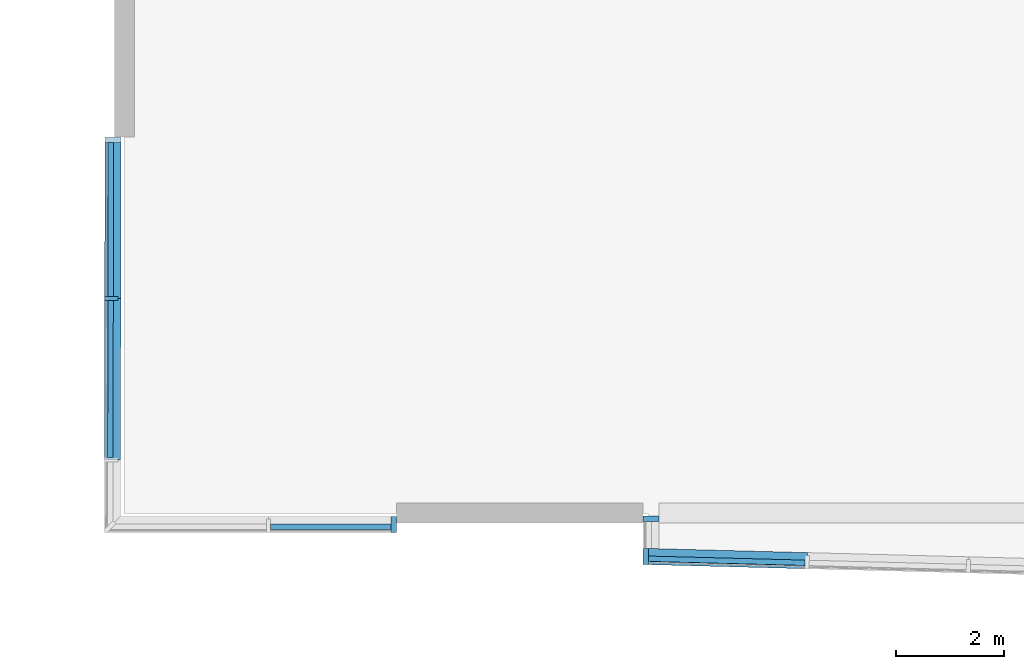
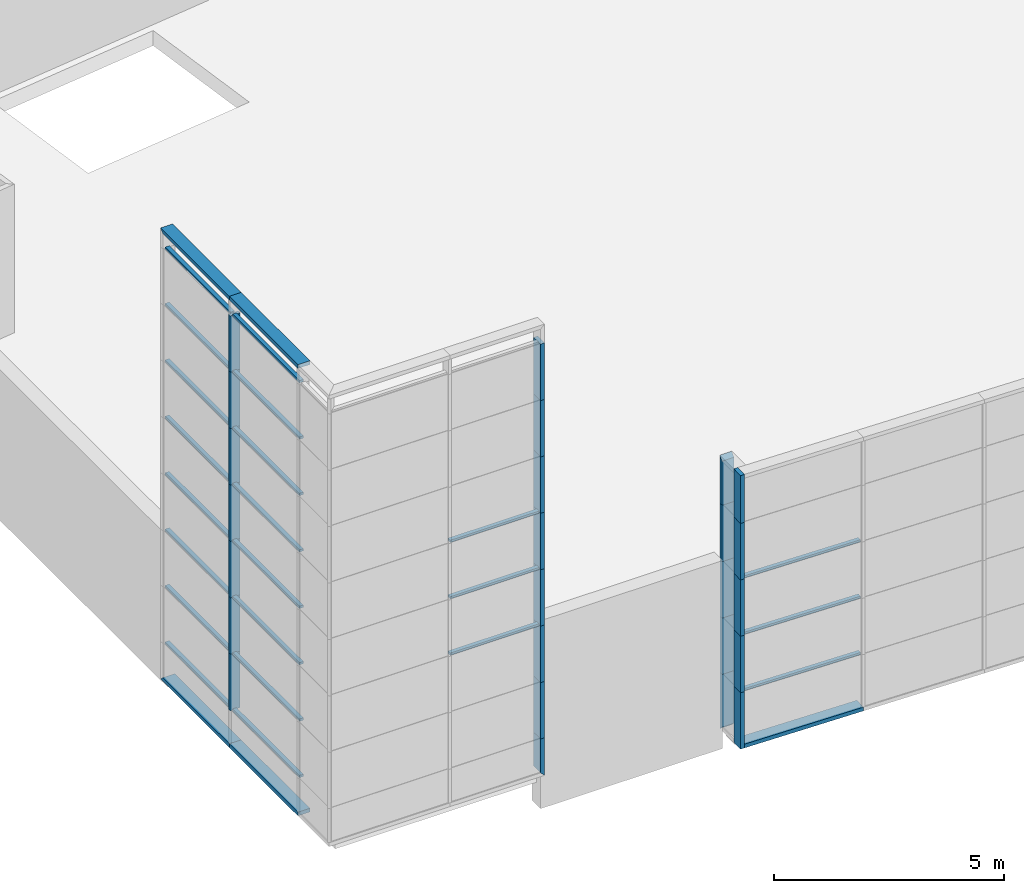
# One storey, part 2 of 27: 52 members, 3 elements without a shape of their own.
"""IFC2X3 building model written with IfcOpenShell, lengths in metres."""

from ifc_helpers import new_model, entity, si_unit, converted_unit, money_unit, direction, frame, origin_with_axes, place, context, subcontext, project, spatial, polyline, outline, extrude, clip, halfspace, material, type_object, element, aggregate, save


model = new_model("IFC2X3")

# Units and contexts
model_context = context("Model", 3, precision=1e-05, world=origin_with_axes(), true_north=direction((0.0, 1.0)))
body_context = subcontext(model_context, "Body", "Model", "MODEL_VIEW")
ifc_project = project(units=[si_unit("LENGTHUNIT", "METRE"), si_unit("AREAUNIT", "SQUARE_METRE"), si_unit("VOLUMEUNIT", "CUBIC_METRE"), converted_unit("PLANEANGLEUNIT", "DEGREE", entity("IfcPlaneAngleMeasure", 0.0174532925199), si_unit("PLANEANGLEUNIT", "RADIAN"), dimensions=[0, 0, 0, 0, 0, 0, 0]), si_unit("SOLIDANGLEUNIT", "STERADIAN"), money_unit("EUR"), converted_unit("TIMEUNIT", "Year", entity("IfcTimeMeasure", 31556926.0), si_unit("TIMEUNIT", "SECOND"), dimensions=[0, 0, 0, 0, 0, 0, 0]), si_unit("MASSUNIT", "GRAM"), si_unit("THERMODYNAMICTEMPERATUREUNIT", "DEGREE_CELSIUS"), si_unit("LUMINOUSINTENSITYUNIT", "LUMEN")], contexts=[model_context])

# Site, building, storey
site_placement = place(None, origin_with_axes())
site = spatial("IfcSite", under=ifc_project, at=site_placement, Name="Undefined", CompositionType="ELEMENT")
building_placement = place(site_placement, origin_with_axes())
building = spatial("IfcBuilding", under=site, at=building_placement, Name="Undefined", CompositionType="ELEMENT")
storey_placement = place(building_placement, frame((0.0, 0.0, 5.4), z_axis=(0.0, 0.0, 1.0), x_axis=(1.0, 0.0, 0.0)))
storey = spatial("IfcBuildingStorey", under=building, at=storey_placement, Name="R+1", CompositionType="ELEMENT", Elevation=5.4)

# Curtain wall, members
curtain_wall_type = type_object("IfcCurtainWallType", Name="Type de mur-rideau", PredefinedType="NOTDEFINED")
curtain_wall_1_placement = place(storey_placement, frame((9.49999998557, -0.66969262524, -0.55), z_axis=(0.0, 0.0, 1.0), x_axis=(1.0, 0.0, 0.0)))
curtain_wall_1 = element("IfcCurtainWall", 1, at=curtain_wall_1_placement, inside=storey, type_object=curtain_wall_type, Name="CurtainWall_01", ObjectType="CURTAIN WALL")
ifc_material = material(Name="25 % 359672764")
member_type_1 = type_object("IfcMemberType", Name="Cadre 100 x 300", PredefinedType="NOTDEFINED")
member_1_placement = place(curtain_wall_1_placement, frame((1.44304870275e-08, 0.426115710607, 0.0), z_axis=(0.0, 0.0, 1.0), x_axis=(3.3865186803e-08, 1.0, 0.0)))
member_1 = element("IfcMember", 2, at=member_1_placement, type_object=member_type_1, material=ifc_material, Name="Frame-Bnd-802", context=body_context, shape_type="Clipping", body=[
    clip(extrude(outline(polyline([(0.25, -8.46629669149e-09), (-0.05, 1.6932593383e-09), (-0.0500000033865, -0.0999999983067), (0.249999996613, -0.100000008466), (0.25, -8.46629669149e-09)])), frame((0.0, 0.0, 0.0), z_axis=(0.0, 0.0, 1.0), x_axis=(3.3865186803e-08, -1.0, 0.0)), (0.0, 0.0, 1.0), 1.5), halfspace(frame((0.0, 0.0, 0.0), z_axis=(0.707106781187, 0.0, 0.707106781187), x_axis=(0.0, -1.0, 0.0)), True)),
])
member_2_placement = place(curtain_wall_1_placement, frame((1.44304870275e-08, 0.426115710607, 1.5), z_axis=(0.0, 0.0, 1.0), x_axis=(3.3865186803e-08, 1.0, 0.0)))
member_2 = element("IfcMember", 3, at=member_2_placement, type_object=member_type_1, material=ifc_material, Name="Frame-Bnd-802", context=body_context, shape_type="SweptSolid", body=[
    extrude(outline(polyline([(0.25, -8.46629669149e-09), (-0.05, 1.6932593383e-09), (-0.0500000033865, -0.0999999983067), (0.249999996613, -0.100000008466), (0.25, -8.46629669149e-09)])), frame((0.0, 0.0, 0.0), z_axis=(0.0, 0.0, 1.0), x_axis=(3.3865186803e-08, -1.0, 0.0)), (0.0, 0.0, 1.0), 1.5),
])
member_3_placement = place(curtain_wall_1_placement, frame((1.44304870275e-08, 0.426115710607, 3.0), z_axis=(0.0, 0.0, 1.0), x_axis=(3.3865186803e-08, 1.0, 0.0)))
member_3 = element("IfcMember", 4, at=member_3_placement, type_object=member_type_1, material=ifc_material, Name="Frame-Bnd-802", context=body_context, shape_type="SweptSolid", body=[
    extrude(outline(polyline([(0.25, -8.46629669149e-09), (-0.05, 1.6932593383e-09), (-0.0500000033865, -0.0999999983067), (0.249999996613, -0.100000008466), (0.25, -8.46629669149e-09)])), frame((0.0, 0.0, 0.0), z_axis=(0.0, 0.0, 1.0), x_axis=(3.3865186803e-08, -1.0, 0.0)), (0.0, 0.0, 1.0), 1.5),
])
member_4_placement = place(curtain_wall_1_placement, frame((1.44304870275e-08, 0.426115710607, 4.5), z_axis=(0.0, 0.0, 1.0), x_axis=(3.3865186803e-08, 1.0, 0.0)))
member_4 = element("IfcMember", 5, at=member_4_placement, type_object=member_type_1, material=ifc_material, Name="Frame-Bnd-802", context=body_context, shape_type="SweptSolid", body=[
    extrude(outline(polyline([(0.25, -8.46629669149e-09), (-0.05, 1.6932593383e-09), (-0.0500000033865, -0.0999999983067), (0.249999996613, -0.100000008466), (0.25, -8.46629669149e-09)])), frame((0.0, 0.0, 0.0), z_axis=(0.0, 0.0, 1.0), x_axis=(3.3865186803e-08, -1.0, 0.0)), (0.0, 0.0, 1.0), 1.5),
])
member_5_placement = place(curtain_wall_1_placement, frame((1.44304870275e-08, 0.426115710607, 6.0), z_axis=(0.0, 0.0, 1.0), x_axis=(3.3865186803e-08, 1.0, 0.0)))
member_5 = element("IfcMember", 6, at=member_5_placement, type_object=member_type_1, material=ifc_material, Name="Frame-Bnd-802", context=body_context, shape_type="Clipping", body=[
    clip(extrude(outline(polyline([(0.25, -8.46629669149e-09), (-0.05, 1.6932593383e-09), (-0.0500000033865, -0.0999999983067), (0.249999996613, -0.100000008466), (0.25, -8.46629669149e-09)])), frame((0.0, 0.0, 0.0), z_axis=(0.0, 0.0, 1.0), x_axis=(3.3865186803e-08, -1.0, 0.0)), (0.0, 0.0, 1.0), 1.27482766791), halfspace(frame((-0.637413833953, 0.0, 0.637413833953), z_axis=(0.707106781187, 0.0, -0.707106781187), x_axis=(0.0, 1.0, 0.0)), True)),
])
aggregate(curtain_wall_1, [member_1, member_2, member_3, member_4, member_5])

curtain_wall_2_placement = place(storey_placement, frame((-0.508840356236, 0.150119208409, 0.0), z_axis=(0.0, 0.0, 1.0), x_axis=(1.0, 0.0, 0.0)))
curtain_wall_2 = element("IfcCurtainWall", 7, at=curtain_wall_2_placement, inside=storey, type_object=curtain_wall_type, Name="CurtainWall_01", ObjectType="CURTAIN WALL")
member_6_placement = place(curtain_wall_2_placement, frame((0.00485267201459, 3.65011655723, 12.0000000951), z_axis=(0.00132945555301, 0.999999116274, 0.0), x_axis=(0.0, 0.0, -1.0)))
member_6 = element("IfcMember", 8, at=member_6_placement, type_object=member_type_1, material=ifc_material, Name="Frame-Bnd-934", context=body_context, shape_type="Clipping", body=[
    clip(extrude(outline(polyline([(0.25, 0.1), (-0.05, 0.1), (-0.05, 0.0), (0.25, 0.0), (0.25, 0.1)])), frame((0.0, 0.0, 0.0), z_axis=(0.0, 0.0, 1.0), x_axis=(0.0, -1.0, 0.0)), (0.0, 0.0, 1.0), 3.0), halfspace(frame((1.5, 0.0, 1.5), z_axis=(-0.707106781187, 0.0, -0.707106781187), x_axis=(0.0, 1.0, 0.0)), True)),
])
member_7_placement = place(curtain_wall_2_placement, frame((5.37446819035, -0.650119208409, 0.0), z_axis=(8.94070504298e-08, 0.0, 1.0), x_axis=(-1.0, 0.0, 8.94070504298e-08)))
member_7 = element("IfcMember", 9, at=member_7_placement, type_object=member_type_1, material=ifc_material, Name="Frame-Bnd-677", context=body_context, shape_type="Clipping", body=[
    clip(extrude(outline(polyline([(-0.1, 0.25), (-0.1, -0.05), (0.0, -0.05), (0.0, 0.25), (-0.1, 0.25)])), frame((0.0, 0.0, 0.0), z_axis=(0.0, 0.0, 1.0), x_axis=(-1.0, 0.0, 8.94070504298e-08)), (0.0, 0.0, 1.0), 1.00000002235), halfspace(frame((0.0, 0.0, 0.0), z_axis=(-0.707106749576, 0.0, 0.707106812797), x_axis=(0.0, -1.0, 0.0)), True)),
])
member_8_placement = place(curtain_wall_2_placement, frame((0.00884103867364, 6.65011390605, 0.0), z_axis=(-0.00132945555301, -0.999999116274, 0.0), x_axis=(0.0, 0.0, 1.0)))
member_8 = element("IfcMember", 10, at=member_8_placement, type_object=member_type_1, material=ifc_material, Name="Frame-Bnd-835", context=body_context, shape_type="Clipping", body=[
    clip(extrude(outline(polyline([(-0.25, -0.1), (0.05, -0.1), (0.05, 0.0), (-0.25, 0.0), (-0.25, -0.1)])), frame((0.0, 0.0, 0.0), z_axis=(0.0, 0.0, 1.0), x_axis=(0.0, 1.0, 0.0)), (0.0, 0.0, 1.0), 3.0), halfspace(frame((0.0, 0.0, 0.0), z_axis=(-0.707106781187, 0.0, 0.707106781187), x_axis=(0.0, -1.0, 0.0)), True)),
])
member_9_placement = place(curtain_wall_2_placement, frame((5.37446827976, -0.650119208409, 2.50000002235), z_axis=(-8.32459896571e-08, 0.0, 1.0), x_axis=(-1.0, 0.0, -8.32459896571e-08)))
member_9 = element("IfcMember", 11, at=member_9_placement, type_object=member_type_1, material=ifc_material, Name="Frame-Bnd-675", context=body_context, shape_type="SweptSolid", body=[
    extrude(outline(polyline([(-0.1, 0.25), (-0.1, -0.05), (0.0, -0.05), (0.0, 0.25), (-0.1, 0.25)])), frame((0.0, 0.0, 0.0), z_axis=(0.0, 0.0, 1.0), x_axis=(-1.0, 0.0, -8.32459896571e-08)), (0.0, 0.0, 1.0), 1.5),
])
member_10_placement = place(curtain_wall_2_placement, frame((5.37446827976, -0.650119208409, 1.00000002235), z_axis=(0.0, 0.0, 1.0), x_axis=(-1.0, 0.0, 0.0)))
member_10 = element("IfcMember", 12, at=member_10_placement, type_object=member_type_1, material=ifc_material, Name="Frame-Bnd-676", context=body_context, shape_type="SweptSolid", body=[
    extrude(outline(polyline([(-0.1, 0.25), (-0.1, -0.05), (0.0, -0.05), (0.0, 0.25), (-0.1, 0.25)])), frame((0.0, 0.0, 0.0), z_axis=(0.0, 0.0, 1.0), x_axis=(-1.0, 0.0, 0.0)), (0.0, 0.0, 1.0), 1.5),
])
member_11_placement = place(curtain_wall_2_placement, frame((0.00485267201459, 3.65011655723, 0.0), z_axis=(-0.00132945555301, -0.999999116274, 0.0), x_axis=(0.0, 0.0, 1.0)))
member_11 = element("IfcMember", 13, at=member_11_placement, type_object=member_type_1, material=ifc_material, Name="Frame-Bnd-834", context=body_context, shape_type="SweptSolid", body=[
    extrude(outline(polyline([(-0.25, -0.1), (0.05, -0.1), (0.05, 0.0), (-0.25, 0.0), (-0.25, -0.1)])), frame((0.0, 0.0, 0.0), z_axis=(0.0, 0.0, 1.0), x_axis=(0.0, 1.0, 0.0)), (0.0, 0.0, 1.0), 3.0),
])
member_12_placement = place(curtain_wall_2_placement, frame((0.00086430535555, 0.650119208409, 12.0000000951), z_axis=(0.00132945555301, 0.999999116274, 0.0), x_axis=(0.0, 0.0, -1.0)))
member_12 = element("IfcMember", 14, at=member_12_placement, type_object=member_type_1, material=ifc_material, Name="Frame-Bnd-935", context=body_context, shape_type="SweptSolid", body=[
    extrude(outline(polyline([(0.25, 0.1), (-0.05, 0.1), (-0.05, 0.0), (0.25, 0.0), (0.25, 0.1)])), frame((0.0, 0.0, 0.0), z_axis=(0.0, 0.0, 1.0), x_axis=(0.0, -1.0, 0.0)), (0.0, 0.0, 1.0), 3.0),
])
member_13_placement = place(curtain_wall_2_placement, frame((5.37446815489, -0.650119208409, 10.0000000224), z_axis=(2.36412880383e-08, 0.0, 1.0), x_axis=(-1.0, 0.0, 2.36412880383e-08)))
member_13 = element("IfcMember", 15, at=member_13_placement, type_object=member_type_1, material=ifc_material, Name="Frame-Bnd-777", context=body_context, shape_type="SweptSolid", body=[
    extrude(outline(polyline([(-0.1, 0.25), (-0.1, -0.05), (0.0, -0.05), (0.0, 0.25), (-0.1, 0.25)])), frame((0.0, 0.0, 0.0), z_axis=(0.0, 0.0, 1.0), x_axis=(-1.0, 0.0, 2.36412880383e-08)), (0.0, 0.0, 1.0), 1.5),
])
member_14_placement = place(curtain_wall_2_placement, frame((5.37446815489, -0.650119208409, 8.50000002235), z_axis=(0.0, 0.0, 1.0), x_axis=(-1.0, 0.0, 0.0)))
member_14 = element("IfcMember", 16, at=member_14_placement, type_object=member_type_1, material=ifc_material, Name="Frame-Bnd-778", context=body_context, shape_type="SweptSolid", body=[
    extrude(outline(polyline([(-0.1, 0.25), (-0.1, -0.05), (0.0, -0.05), (0.0, 0.25), (-0.1, 0.25)])), frame((0.0, 0.0, 0.0), z_axis=(0.0, 0.0, 1.0), x_axis=(-1.0, 0.0, 0.0)), (0.0, 0.0, 1.0), 1.5),
])
member_15_placement = place(curtain_wall_2_placement, frame((5.37446815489, -0.650119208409, 7.00000002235), z_axis=(0.0, 0.0, 1.0), x_axis=(-1.0, 0.0, 0.0)))
member_15 = element("IfcMember", 17, at=member_15_placement, type_object=member_type_1, material=ifc_material, Name="Frame-Bnd-779", context=body_context, shape_type="SweptSolid", body=[
    extrude(outline(polyline([(-0.1, 0.25), (-0.1, -0.05), (0.0, -0.05), (0.0, 0.25), (-0.1, 0.25)])), frame((0.0, 0.0, 0.0), z_axis=(0.0, 0.0, 1.0), x_axis=(-1.0, 0.0, 0.0)), (0.0, 0.0, 1.0), 1.5),
])
member_16_placement = place(curtain_wall_2_placement, frame((5.37446815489, -0.650119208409, 5.50000002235), z_axis=(0.0, 0.0, 1.0), x_axis=(-1.0, 0.0, 0.0)))
member_16 = element("IfcMember", 18, at=member_16_placement, type_object=member_type_1, material=ifc_material, Name="Frame-Bnd-780", context=body_context, shape_type="SweptSolid", body=[
    extrude(outline(polyline([(-0.1, 0.25), (-0.1, -0.05), (0.0, -0.05), (0.0, 0.25), (-0.1, 0.25)])), frame((0.0, 0.0, 0.0), z_axis=(0.0, 0.0, 1.0), x_axis=(-1.0, 0.0, 0.0)), (0.0, 0.0, 1.0), 1.5),
])
member_17_placement = place(curtain_wall_2_placement, frame((5.37446815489, -0.650119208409, 4.00000002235), z_axis=(0.0, 0.0, 1.0), x_axis=(-1.0, 0.0, 0.0)))
member_17 = element("IfcMember", 19, at=member_17_placement, type_object=member_type_1, material=ifc_material, Name="Frame-Bnd-781", context=body_context, shape_type="SweptSolid", body=[
    extrude(outline(polyline([(-0.1, 0.25), (-0.1, -0.05), (0.0, -0.05), (0.0, 0.25), (-0.1, 0.25)])), frame((0.0, 0.0, 0.0), z_axis=(0.0, 0.0, 1.0), x_axis=(-1.0, 0.0, 0.0)), (0.0, 0.0, 1.0), 1.5),
])

# Curtain wall, member
curtain_wall_3_placement = place(storey_placement, frame((10.9994920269, -1.13484133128, -0.55), z_axis=(0.0, 0.0, 1.0), x_axis=(1.0, 0.0, 0.0)))
curtain_wall_3 = element("IfcCurtainWall", 20, at=curtain_wall_3_placement, inside=storey, type_object=curtain_wall_type, Name="CurtainWall_01", ObjectType="CURTAIN WALL")
member_18_placement = place(curtain_wall_3_placement, frame((-1.49949205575, 0.0390329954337, 0.0), z_axis=(0.999661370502, -0.0260219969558, 0.0), x_axis=(0.0, 0.0, 1.0)))
member_18 = element("IfcMember", 21, at=member_18_placement, type_object=member_type_1, material=ifc_material, Name="Frame-Bnd-565", context=body_context, shape_type="SweptSolid", body=[
    extrude(outline(polyline([(-0.25, -0.1), (0.05, -0.1), (0.05, 0.0), (-0.25, 0.0), (-0.25, -0.1)])), frame((0.0, 0.0, 0.05), z_axis=(0.0, 0.0, 1.0), x_axis=(0.0, 1.0, 0.0)), (0.0, 0.0, 1.0), 2.95),
])

# Member
member_type_2 = type_object("IfcMemberType", Name="Montant 80 x 250", PredefinedType="NOTDEFINED")
member_19_placement = place(curtain_wall_2_placement, frame((0.00485267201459, 3.65011655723, 1.00000002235), z_axis=(0.0, 0.0, 1.0), x_axis=(0.00132945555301, 0.999999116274, 0.0)))
member_19 = element("IfcMember", 22, at=member_19_placement, type_object=member_type_2, material=ifc_material, Name="Frame-Mll-133", context=body_context, shape_type="SweptSolid", body=[
    extrude(outline(polyline([(0.200053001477, 0.0397340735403), (-0.0499467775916, 0.0400664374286), (-0.0500531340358, -0.0399334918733), (0.199946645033, -0.0402658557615), (0.200053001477, 0.0397340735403)])), frame((0.0, 0.0, 0.0), z_axis=(0.0, 0.0, 1.0), x_axis=(0.00132945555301, -0.999999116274, 0.0)), (0.0, 0.0, 1.0), 1.5),
])

member_20_placement = place(curtain_wall_2_placement, frame((0.00485267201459, 3.65011655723, 2.50000002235), z_axis=(0.0, 0.0, 1.0), x_axis=(0.00132945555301, 0.999999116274, 0.0)))
member_20 = element("IfcMember", 23, at=member_20_placement, type_object=member_type_2, material=ifc_material, Name="Frame-Mll-166", context=body_context, shape_type="SweptSolid", body=[
    extrude(outline(polyline([(0.200053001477, 0.0397340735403), (-0.0499467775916, 0.0400664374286), (-0.0500531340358, -0.0399334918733), (0.199946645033, -0.0402658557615), (0.200053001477, 0.0397340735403)])), frame((0.0, 0.0, 0.0), z_axis=(0.0, 0.0, 1.0), x_axis=(0.00132945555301, -0.999999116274, 0.0)), (0.0, 0.0, 1.0), 1.5),
])

member_21_placement = place(curtain_wall_2_placement, frame((0.00485267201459, 3.65011655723, 4.00000002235), z_axis=(0.0, 0.0, 1.0), x_axis=(0.00132945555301, 0.999999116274, 0.0)))
member_21 = element("IfcMember", 24, at=member_21_placement, type_object=member_type_2, material=ifc_material, Name="Frame-Mll-167", context=body_context, shape_type="SweptSolid", body=[
    extrude(outline(polyline([(0.200053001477, 0.0397340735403), (-0.0499467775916, 0.0400664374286), (-0.0500531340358, -0.0399334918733), (0.199946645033, -0.0402658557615), (0.200053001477, 0.0397340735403)])), frame((0.0, 0.0, 0.0), z_axis=(0.0, 0.0, 1.0), x_axis=(0.00132945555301, -0.999999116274, 0.0)), (0.0, 0.0, 1.0), 1.5),
])

member_22_placement = place(curtain_wall_2_placement, frame((0.00485267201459, 3.65011655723, 5.50000002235), z_axis=(0.0, 0.0, 1.0), x_axis=(0.00132945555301, 0.999999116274, 0.0)))
member_22 = element("IfcMember", 25, at=member_22_placement, type_object=member_type_2, material=ifc_material, Name="Frame-Mll-168", context=body_context, shape_type="SweptSolid", body=[
    extrude(outline(polyline([(0.200053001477, 0.0397340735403), (-0.0499467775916, 0.0400664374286), (-0.0500531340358, -0.0399334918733), (0.199946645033, -0.0402658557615), (0.200053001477, 0.0397340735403)])), frame((0.0, 0.0, 0.0), z_axis=(0.0, 0.0, 1.0), x_axis=(0.00132945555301, -0.999999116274, 0.0)), (0.0, 0.0, 1.0), 1.5),
])

member_23_placement = place(curtain_wall_2_placement, frame((0.00485267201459, 3.65011655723, 7.00000002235), z_axis=(0.0, 0.0, 1.0), x_axis=(0.00132945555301, 0.999999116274, 0.0)))
member_23 = element("IfcMember", 26, at=member_23_placement, type_object=member_type_2, material=ifc_material, Name="Frame-Mll-169", context=body_context, shape_type="SweptSolid", body=[
    extrude(outline(polyline([(0.200053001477, 0.0397340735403), (-0.0499467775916, 0.0400664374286), (-0.0500531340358, -0.0399334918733), (0.199946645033, -0.0402658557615), (0.200053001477, 0.0397340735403)])), frame((0.0, 0.0, 0.0), z_axis=(0.0, 0.0, 1.0), x_axis=(0.00132945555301, -0.999999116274, 0.0)), (0.0, 0.0, 1.0), 1.5),
])

member_24_placement = place(curtain_wall_2_placement, frame((0.00485267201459, 3.65011655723, 8.50000002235), z_axis=(0.0, 0.0, 1.0), x_axis=(0.00132945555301, 0.999999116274, 0.0)))
member_24 = element("IfcMember", 27, at=member_24_placement, type_object=member_type_2, material=ifc_material, Name="Frame-Mll-170", context=body_context, shape_type="SweptSolid", body=[
    extrude(outline(polyline([(0.200053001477, 0.0397340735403), (-0.0499467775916, 0.0400664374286), (-0.0500531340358, -0.0399334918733), (0.199946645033, -0.0402658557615), (0.200053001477, 0.0397340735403)])), frame((0.0, 0.0, 0.0), z_axis=(0.0, 0.0, 1.0), x_axis=(0.00132945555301, -0.999999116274, 0.0)), (0.0, 0.0, 1.0), 1.5),
])

member_25_placement = place(curtain_wall_2_placement, frame((0.00485267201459, 3.65011655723, 10.0000000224), z_axis=(0.0, 0.0, 1.0), x_axis=(0.00132945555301, 0.999999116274, 0.0)))
member_25 = element("IfcMember", 28, at=member_25_placement, type_object=member_type_2, material=ifc_material, Name="Frame-Mll-171", context=body_context, shape_type="SweptSolid", body=[
    extrude(outline(polyline([(0.200053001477, 0.0397340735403), (-0.0499467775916, 0.0400664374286), (-0.0500531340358, -0.0399334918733), (0.199946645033, -0.0402658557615), (0.200053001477, 0.0397340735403)])), frame((0.0, 0.0, 0.0), z_axis=(0.0, 0.0, 1.0), x_axis=(0.00132945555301, -0.999999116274, 0.0)), (0.0, 0.0, 1.0), 1.5),
])

member_type_3 = type_object("IfcMemberType", Name="Traverse 60 x 100", PredefinedType="NOTDEFINED")
member_26_placement = place(curtain_wall_2_placement, frame((0.00884103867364, 6.65011390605, 1.00000002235), z_axis=(-0.00132945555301, -0.999999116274, 0.0), x_axis=(0.0, 0.0, 1.0)))
member_26 = element("IfcMember", 29, at=member_26_placement, type_object=member_type_3, material=ifc_material, Name="Frame-Trs-422", context=body_context, shape_type="SweptSolid", body=[
    extrude(outline(polyline([(-0.11, -0.03), (-0.01, -0.03), (-0.01, 0.03), (-0.11, 0.03), (-0.11, -0.03)])), frame((0.0, 0.0, 0.1), z_axis=(0.0, 0.0, 1.0), x_axis=(0.0, 1.0, 0.0)), (0.0, 0.0, 1.0), 2.86),
])

member_27_placement = place(curtain_wall_2_placement, frame((0.00884103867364, 6.65011390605, 2.50000002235), z_axis=(-0.00132945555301, -0.999999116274, 0.0), x_axis=(0.0, 0.0, 1.0)))
member_27 = element("IfcMember", 30, at=member_27_placement, type_object=member_type_3, material=ifc_material, Name="Frame-Trs-425", context=body_context, shape_type="SweptSolid", body=[
    extrude(outline(polyline([(-0.11, -0.03), (-0.01, -0.03), (-0.01, 0.03), (-0.11, 0.03), (-0.11, -0.03)])), frame((0.0, 0.0, 0.1), z_axis=(0.0, 0.0, 1.0), x_axis=(0.0, 1.0, 0.0)), (0.0, 0.0, 1.0), 2.86),
])

member_28_placement = place(curtain_wall_2_placement, frame((0.00485267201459, 3.65011655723, 2.50000002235), z_axis=(-0.00132945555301, -0.999999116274, 0.0), x_axis=(0.0, 0.0, 1.0)))
member_28 = element("IfcMember", 31, at=member_28_placement, type_object=member_type_3, material=ifc_material, Name="Frame-Trs-426", context=body_context, shape_type="SweptSolid", body=[
    extrude(outline(polyline([(-0.11, -0.03), (-0.01, -0.03), (-0.01, 0.03), (-0.11, 0.03), (-0.11, -0.03)])), frame((0.0, 0.0, 0.04), z_axis=(0.0, 0.0, 1.0), x_axis=(0.0, 1.0, 0.0)), (0.0, 0.0, 1.0), 2.92),
])

member_29_placement = place(curtain_wall_2_placement, frame((0.00884103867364, 6.65011390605, 4.00000002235), z_axis=(-0.00132945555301, -0.999999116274, 0.0), x_axis=(0.0, 0.0, 1.0)))
member_29 = element("IfcMember", 32, at=member_29_placement, type_object=member_type_3, material=ifc_material, Name="Frame-Trs-446", context=body_context, shape_type="SweptSolid", body=[
    extrude(outline(polyline([(-0.11, -0.03), (-0.01, -0.03), (-0.01, 0.03), (-0.11, 0.03), (-0.11, -0.03)])), frame((0.0, 0.0, 0.1), z_axis=(0.0, 0.0, 1.0), x_axis=(0.0, 1.0, 0.0)), (0.0, 0.0, 1.0), 2.86),
])

member_30_placement = place(curtain_wall_2_placement, frame((0.00485267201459, 3.65011655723, 4.00000002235), z_axis=(-0.00132945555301, -0.999999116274, 0.0), x_axis=(0.0, 0.0, 1.0)))
member_30 = element("IfcMember", 33, at=member_30_placement, type_object=member_type_3, material=ifc_material, Name="Frame-Trs-447", context=body_context, shape_type="SweptSolid", body=[
    extrude(outline(polyline([(-0.11, -0.03), (-0.01, -0.03), (-0.01, 0.03), (-0.11, 0.03), (-0.11, -0.03)])), frame((0.0, 0.0, 0.04), z_axis=(0.0, 0.0, 1.0), x_axis=(0.0, 1.0, 0.0)), (0.0, 0.0, 1.0), 2.92),
])

member_31_placement = place(curtain_wall_2_placement, frame((0.00884103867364, 6.65011390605, 5.50000002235), z_axis=(-0.00132945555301, -0.999999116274, 0.0), x_axis=(0.0, 0.0, 1.0)))
member_31 = element("IfcMember", 34, at=member_31_placement, type_object=member_type_3, material=ifc_material, Name="Frame-Trs-449", context=body_context, shape_type="SweptSolid", body=[
    extrude(outline(polyline([(-0.11, -0.03), (-0.01, -0.03), (-0.01, 0.03), (-0.11, 0.03), (-0.11, -0.03)])), frame((0.0, 0.0, 0.1), z_axis=(0.0, 0.0, 1.0), x_axis=(0.0, 1.0, 0.0)), (0.0, 0.0, 1.0), 2.86),
])

member_32_placement = place(curtain_wall_2_placement, frame((0.00485267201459, 3.65011655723, 5.50000002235), z_axis=(-0.00132945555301, -0.999999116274, 0.0), x_axis=(0.0, 0.0, 1.0)))
member_32 = element("IfcMember", 35, at=member_32_placement, type_object=member_type_3, material=ifc_material, Name="Frame-Trs-450", context=body_context, shape_type="SweptSolid", body=[
    extrude(outline(polyline([(-0.11, -0.03), (-0.01, -0.03), (-0.01, 0.03), (-0.11, 0.03), (-0.11, -0.03)])), frame((0.0, 0.0, 0.04), z_axis=(0.0, 0.0, 1.0), x_axis=(0.0, 1.0, 0.0)), (0.0, 0.0, 1.0), 2.92),
])

member_33_placement = place(curtain_wall_2_placement, frame((0.00884103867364, 6.65011390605, 7.00000002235), z_axis=(-0.00132945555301, -0.999999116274, 0.0), x_axis=(0.0, 0.0, 1.0)))
member_33 = element("IfcMember", 36, at=member_33_placement, type_object=member_type_3, material=ifc_material, Name="Frame-Trs-452", context=body_context, shape_type="SweptSolid", body=[
    extrude(outline(polyline([(-0.11, -0.03), (-0.01, -0.03), (-0.01, 0.03), (-0.11, 0.03), (-0.11, -0.03)])), frame((0.0, 0.0, 0.1), z_axis=(0.0, 0.0, 1.0), x_axis=(0.0, 1.0, 0.0)), (0.0, 0.0, 1.0), 2.86),
])

member_34_placement = place(curtain_wall_2_placement, frame((0.00485267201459, 3.65011655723, 7.00000002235), z_axis=(-0.00132945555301, -0.999999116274, 0.0), x_axis=(0.0, 0.0, 1.0)))
member_34 = element("IfcMember", 37, at=member_34_placement, type_object=member_type_3, material=ifc_material, Name="Frame-Trs-453", context=body_context, shape_type="SweptSolid", body=[
    extrude(outline(polyline([(-0.11, -0.03), (-0.01, -0.03), (-0.01, 0.03), (-0.11, 0.03), (-0.11, -0.03)])), frame((0.0, 0.0, 0.04), z_axis=(0.0, 0.0, 1.0), x_axis=(0.0, 1.0, 0.0)), (0.0, 0.0, 1.0), 2.92),
])

member_35_placement = place(curtain_wall_2_placement, frame((0.00884103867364, 6.65011390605, 8.50000002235), z_axis=(-0.00132945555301, -0.999999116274, 0.0), x_axis=(0.0, 0.0, 1.0)))
member_35 = element("IfcMember", 38, at=member_35_placement, type_object=member_type_3, material=ifc_material, Name="Frame-Trs-455", context=body_context, shape_type="SweptSolid", body=[
    extrude(outline(polyline([(-0.11, -0.03), (-0.01, -0.03), (-0.01, 0.03), (-0.11, 0.03), (-0.11, -0.03)])), frame((0.0, 0.0, 0.1), z_axis=(0.0, 0.0, 1.0), x_axis=(0.0, 1.0, 0.0)), (0.0, 0.0, 1.0), 2.86),
])

member_36_placement = place(curtain_wall_2_placement, frame((0.00485267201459, 3.65011655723, 8.50000002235), z_axis=(-0.00132945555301, -0.999999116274, 0.0), x_axis=(0.0, 0.0, 1.0)))
member_36 = element("IfcMember", 39, at=member_36_placement, type_object=member_type_3, material=ifc_material, Name="Frame-Trs-456", context=body_context, shape_type="SweptSolid", body=[
    extrude(outline(polyline([(-0.11, -0.03), (-0.01, -0.03), (-0.01, 0.03), (-0.11, 0.03), (-0.11, -0.03)])), frame((0.0, 0.0, 0.04), z_axis=(0.0, 0.0, 1.0), x_axis=(0.0, 1.0, 0.0)), (0.0, 0.0, 1.0), 2.92),
])

member_37_placement = place(curtain_wall_2_placement, frame((0.00884103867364, 6.65011390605, 10.0000000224), z_axis=(-0.00132945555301, -0.999999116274, 0.0), x_axis=(0.0, 0.0, 1.0)))
member_37 = element("IfcMember", 40, at=member_37_placement, type_object=member_type_3, material=ifc_material, Name="Frame-Trs-458", context=body_context, shape_type="SweptSolid", body=[
    extrude(outline(polyline([(-0.11, -0.03), (-0.01, -0.03), (-0.01, 0.03), (-0.11, 0.03), (-0.11, -0.03)])), frame((0.0, 0.0, 0.1), z_axis=(0.0, 0.0, 1.0), x_axis=(0.0, 1.0, 0.0)), (0.0, 0.0, 1.0), 2.86),
])

member_38_placement = place(curtain_wall_2_placement, frame((0.00485267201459, 3.65011655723, 10.0000000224), z_axis=(-0.00132945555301, -0.999999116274, 0.0), x_axis=(0.0, 0.0, 1.0)))
member_38 = element("IfcMember", 41, at=member_38_placement, type_object=member_type_3, material=ifc_material, Name="Frame-Trs-459", context=body_context, shape_type="SweptSolid", body=[
    extrude(outline(polyline([(-0.11, -0.03), (-0.01, -0.03), (-0.01, 0.03), (-0.11, 0.03), (-0.11, -0.03)])), frame((0.0, 0.0, 0.04), z_axis=(0.0, 0.0, 1.0), x_axis=(0.0, 1.0, 0.0)), (0.0, 0.0, 1.0), 2.92),
])

member_39_placement = place(curtain_wall_2_placement, frame((0.00884103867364, 6.65011390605, 11.5000000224), z_axis=(-0.00132945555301, -0.999999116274, 0.0), x_axis=(0.0, 0.0, 1.0)))
member_39 = element("IfcMember", 42, at=member_39_placement, type_object=member_type_3, material=ifc_material, Name="Frame-Trs-461", context=body_context, shape_type="SweptSolid", body=[
    extrude(outline(polyline([(-0.11, -0.03), (-0.01, -0.03), (-0.01, 0.03), (-0.11, 0.03), (-0.11, -0.03)])), frame((0.0, 0.0, 0.1), z_axis=(0.0, 0.0, 1.0), x_axis=(0.0, 1.0, 0.0)), (0.0, 0.0, 1.0), 2.86),
])

member_40_placement = place(curtain_wall_2_placement, frame((0.00485267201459, 3.65011655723, 11.5000000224), z_axis=(-0.00132945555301, -0.999999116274, 0.0), x_axis=(0.0, 0.0, 1.0)))
member_40 = element("IfcMember", 43, at=member_40_placement, type_object=member_type_3, material=ifc_material, Name="Frame-Trs-462", context=body_context, shape_type="SweptSolid", body=[
    extrude(outline(polyline([(-0.11, -0.03), (-0.01, -0.03), (-0.01, 0.03), (-0.11, 0.03), (-0.11, -0.03)])), frame((0.0, 0.0, 0.04), z_axis=(0.0, 0.0, 1.0), x_axis=(0.0, 1.0, 0.0)), (0.0, 0.0, 1.0), 2.92),
])

member_41_placement = place(curtain_wall_2_placement, frame((0.00485267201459, 3.65011655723, 1.00000002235), z_axis=(-0.00132945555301, -0.999999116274, 0.0), x_axis=(0.0, 0.0, 1.0)))
member_41 = element("IfcMember", 44, at=member_41_placement, type_object=member_type_3, material=ifc_material, Name="Frame-Trs-423", context=body_context, shape_type="SweptSolid", body=[
    extrude(outline(polyline([(-0.11, -0.03), (-0.01, -0.03), (-0.01, 0.03), (-0.11, 0.03), (-0.11, -0.03)])), frame((0.0, 0.0, 0.04), z_axis=(0.0, 0.0, 1.0), x_axis=(0.0, 1.0, 0.0)), (0.0, 0.0, 1.0), 2.92),
])

member_42_placement = place(curtain_wall_2_placement, frame((2.99946827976, -0.650119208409, 7.00000002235), z_axis=(1.0, 0.0, 0.0), x_axis=(0.0, 0.0, 1.0)))
member_42 = element("IfcMember", 45, at=member_42_placement, type_object=member_type_3, material=ifc_material, Name="Frame-Trs-488", context=body_context, shape_type="SweptSolid", body=[
    extrude(outline(polyline([(-0.11, -0.03), (-0.01, -0.03), (-0.01, 0.03), (-0.11, 0.03), (-0.11, -0.03)])), frame((0.0, 0.0, 0.04), z_axis=(0.0, 0.0, 1.0), x_axis=(0.0, 1.0, 0.0)), (0.0, 0.0, 1.0), 2.235),
])

member_43_placement = place(curtain_wall_2_placement, frame((2.99946827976, -0.650119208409, 5.50000002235), z_axis=(1.0, 0.0, 0.0), x_axis=(0.0, 0.0, 1.0)))
member_43 = element("IfcMember", 46, at=member_43_placement, type_object=member_type_3, material=ifc_material, Name="Frame-Trs-489", context=body_context, shape_type="SweptSolid", body=[
    extrude(outline(polyline([(-0.11, -0.03), (-0.01, -0.03), (-0.01, 0.03), (-0.11, 0.03), (-0.11, -0.03)])), frame((0.0, 0.0, 0.04), z_axis=(0.0, 0.0, 1.0), x_axis=(0.0, 1.0, 0.0)), (0.0, 0.0, 1.0), 2.235),
])

member_44_placement = place(curtain_wall_2_placement, frame((2.99946827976, -0.650119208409, 4.00000002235), z_axis=(1.0, 0.0, 0.0), x_axis=(0.0, 0.0, 1.0)))
member_44 = element("IfcMember", 47, at=member_44_placement, type_object=member_type_3, material=ifc_material, Name="Frame-Trs-490", context=body_context, shape_type="SweptSolid", body=[
    extrude(outline(polyline([(-0.11, -0.03), (-0.01, -0.03), (-0.01, 0.03), (-0.11, 0.03), (-0.11, -0.03)])), frame((0.0, 0.0, 0.04), z_axis=(0.0, 0.0, 1.0), x_axis=(0.0, 1.0, 0.0)), (0.0, 0.0, 1.0), 2.235),
])

aggregate(curtain_wall_2, [member_6, member_7, member_26, member_8, member_19, member_27, member_28, member_9, member_10, member_11, member_20, member_21, member_22, member_23, member_24, member_25, member_29, member_30, member_31, member_32, member_33, member_34, member_35, member_36, member_37, member_38, member_39, member_40, member_12, member_41, member_13, member_14, member_15, member_42, member_16, member_43, member_17, member_44])

member_45_placement = place(curtain_wall_3_placement, frame((-1.49949205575, 0.0390329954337, 1.5), z_axis=(0.999661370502, -0.0260219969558, 0.0), x_axis=(0.0, 0.0, 1.0)))
member_45 = element("IfcMember", 48, at=member_45_placement, type_object=member_type_3, material=ifc_material, Name="Frame-Trs-501", context=body_context, shape_type="SweptSolid", body=[
    extrude(outline(polyline([(-0.11, -0.03), (-0.01, -0.03), (-0.01, 0.03), (-0.11, 0.03), (-0.11, -0.03)])), frame((0.0, 0.0, 0.05), z_axis=(0.0, 0.0, 1.0), x_axis=(0.0, 1.0, 0.0)), (0.0, 0.0, 1.0), 2.91),
])

member_46_placement = place(curtain_wall_3_placement, frame((-1.49949205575, 0.0390329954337, 3.0), z_axis=(0.999661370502, -0.0260219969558, 0.0), x_axis=(0.0, 0.0, 1.0)))
member_46 = element("IfcMember", 49, at=member_46_placement, type_object=member_type_3, material=ifc_material, Name="Frame-Trs-501", context=body_context, shape_type="SweptSolid", body=[
    extrude(outline(polyline([(-0.11, -0.03), (-0.01, -0.03), (-0.01, 0.03), (-0.11, 0.03), (-0.11, -0.03)])), frame((0.0, 0.0, 0.05), z_axis=(0.0, 0.0, 1.0), x_axis=(0.0, 1.0, 0.0)), (0.0, 0.0, 1.0), 2.91),
])

member_47_placement = place(curtain_wall_3_placement, frame((-1.49949205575, 0.0390329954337, 4.5), z_axis=(0.999661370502, -0.0260219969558, 0.0), x_axis=(0.0, 0.0, 1.0)))
member_47 = element("IfcMember", 50, at=member_47_placement, type_object=member_type_3, material=ifc_material, Name="Frame-Trs-501", context=body_context, shape_type="SweptSolid", body=[
    extrude(outline(polyline([(-0.11, -0.03), (-0.01, -0.03), (-0.01, 0.03), (-0.11, 0.03), (-0.11, -0.03)])), frame((0.0, 0.0, 0.05), z_axis=(0.0, 0.0, 1.0), x_axis=(0.0, 1.0, 0.0)), (0.0, 0.0, 1.0), 2.91),
])

member_type_4 = type_object("IfcMemberType", Name="Personnalis\x8e 100 x 300", PredefinedType="NOTDEFINED")
member_48_placement = place(curtain_wall_3_placement, frame((-1.49949205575, 0.0390329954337, 0.0), z_axis=(0.0, 0.0, 1.0), x_axis=(-0.999661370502, 0.0260219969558, 0.0)))
member_48 = element("IfcMember", 51, at=member_48_placement, type_object=member_type_4, material=ifc_material, Name="Frame-Bnd-565", context=body_context, shape_type="SweptSolid", body=[
    extrude(outline(polyline([(-0.0434775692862, 0.251216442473), (-0.0512841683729, -0.0486819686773), (0.0486819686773, -0.0512841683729), (0.0564885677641, 0.248614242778), (-0.0434775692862, 0.251216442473)])), frame((0.0, 0.0, 0.0), z_axis=(0.0, 0.0, 1.0), x_axis=(-0.999661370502, -0.0260219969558, 0.0)), (0.0, 0.0, 1.0), 1.5),
])

member_49_placement = place(curtain_wall_3_placement, frame((-1.49949205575, 0.0390329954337, 1.5), z_axis=(0.0, 0.0, 1.0), x_axis=(-0.999661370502, 0.0260219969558, 0.0)))
member_49 = element("IfcMember", 52, at=member_49_placement, type_object=member_type_4, material=ifc_material, Name="Frame-Bnd-565", context=body_context, shape_type="SweptSolid", body=[
    extrude(outline(polyline([(-0.0434775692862, 0.251216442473), (-0.0512841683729, -0.0486819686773), (0.0486819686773, -0.0512841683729), (0.0564885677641, 0.248614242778), (-0.0434775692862, 0.251216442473)])), frame((0.0, 0.0, 0.0), z_axis=(0.0, 0.0, 1.0), x_axis=(-0.999661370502, -0.0260219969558, 0.0)), (0.0, 0.0, 1.0), 1.5),
])

member_50_placement = place(curtain_wall_3_placement, frame((-1.49949205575, 0.0390329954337, 3.0), z_axis=(0.0, 0.0, 1.0), x_axis=(-0.999661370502, 0.0260219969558, 0.0)))
member_50 = element("IfcMember", 53, at=member_50_placement, type_object=member_type_4, material=ifc_material, Name="Frame-Bnd-565", context=body_context, shape_type="SweptSolid", body=[
    extrude(outline(polyline([(-0.0434775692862, 0.251216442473), (-0.0512841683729, -0.0486819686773), (0.0486819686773, -0.0512841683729), (0.0564885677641, 0.248614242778), (-0.0434775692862, 0.251216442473)])), frame((0.0, 0.0, 0.0), z_axis=(0.0, 0.0, 1.0), x_axis=(-0.999661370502, -0.0260219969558, 0.0)), (0.0, 0.0, 1.0), 1.5),
])

member_51_placement = place(curtain_wall_3_placement, frame((-1.49949205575, 0.0390329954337, 4.5), z_axis=(0.0, 0.0, 1.0), x_axis=(-0.999661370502, 0.0260219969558, 0.0)))
member_51 = element("IfcMember", 54, at=member_51_placement, type_object=member_type_4, material=ifc_material, Name="Frame-Bnd-565", context=body_context, shape_type="SweptSolid", body=[
    extrude(outline(polyline([(-0.0434775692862, 0.251216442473), (-0.0512841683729, -0.0486819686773), (0.0486819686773, -0.0512841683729), (0.0564885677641, 0.248614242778), (-0.0434775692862, 0.251216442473)])), frame((0.0, 0.0, 0.0), z_axis=(0.0, 0.0, 1.0), x_axis=(-0.999661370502, -0.0260219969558, 0.0)), (0.0, 0.0, 1.0), 1.5),
])

member_52_placement = place(curtain_wall_3_placement, frame((-1.49949205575, 0.0390329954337, 6.0), z_axis=(0.0, 0.0, 1.0), x_axis=(-0.999661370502, 0.0260219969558, 0.0)))
member_52 = element("IfcMember", 55, at=member_52_placement, type_object=member_type_4, material=ifc_material, Name="Frame-Bnd-565", context=body_context, shape_type="SweptSolid", body=[
    extrude(outline(polyline([(-0.0434775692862, 0.251216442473), (-0.0512841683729, -0.0486819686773), (0.0486819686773, -0.0512841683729), (0.0564885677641, 0.248614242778), (-0.0434775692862, 0.251216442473)])), frame((0.0, 0.0, 0.0), z_axis=(0.0, 0.0, 1.0), x_axis=(-0.999661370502, -0.0260219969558, 0.0)), (0.0, 0.0, 1.0), 1.27506830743),
])

aggregate(curtain_wall_3, [member_18, member_48, member_45, member_49, member_46, member_50, member_47, member_51, member_52])

save(model, "model.ifc")
